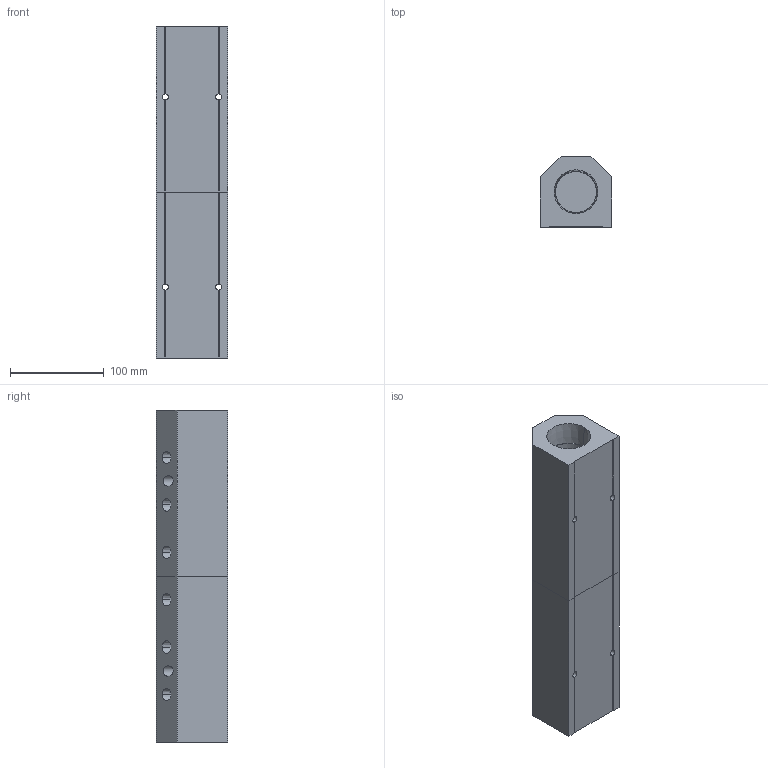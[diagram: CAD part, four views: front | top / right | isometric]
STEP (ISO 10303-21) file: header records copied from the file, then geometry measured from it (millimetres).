
FILE_DESCRIPTION (( 'STEP AP214' ), '1' );
FILE_NAME ('ALM6BCD-N4N24-355RB.step', '2022-02-07T07:52:12', ( '' ), ( '' ), 'SwSTEP 2.0', 'SolidWorks 2020', '' );
FILE_SCHEMA (( 'AUTOMOTIVE_DESIGN' ));
Length unit declared in the file: millimetre
Products named in the file (1): ALM6BCD-N4N24-355RB
Bounding box: 76.2 x 76.2 x 355 mm (x, y, z)
Volume: 1284368.8 mm3; surface area: 181946.9 mm2
Topology: 2 solids, 2 shells, 392 faces, 1039 edges, 690 vertices
Faces by surface type: plane 247, bspline 85, cone 40, cylinder 20
Entity records: 22572 total; most frequent: CARTESIAN_POINT 9627, ORIENTED_EDGE 2078, DIRECTION 1509, EDGE_CURVE 1039, LINE 741, VECTOR 741, VERTEX_POINT 690, EDGE_LOOP 475
